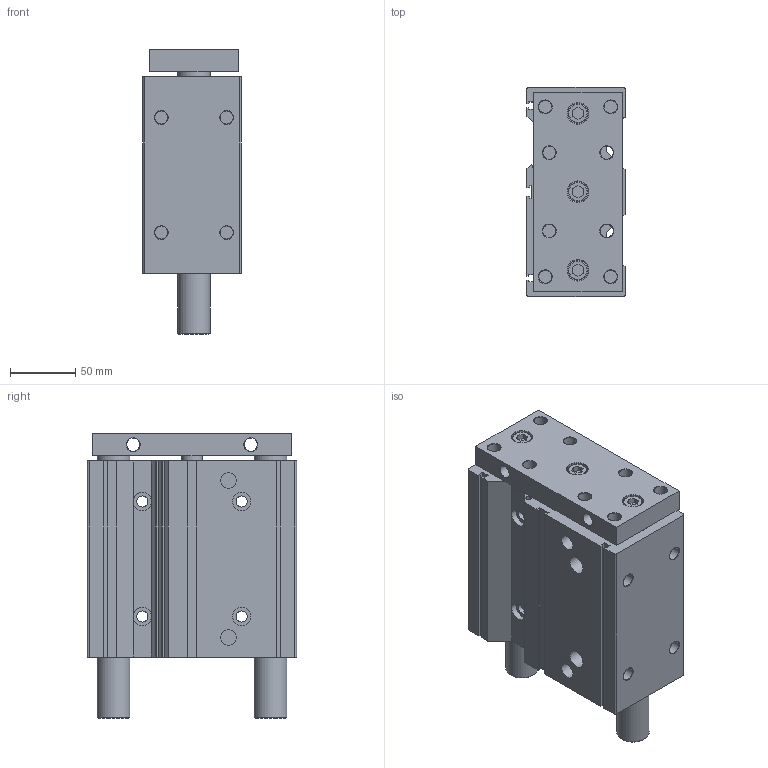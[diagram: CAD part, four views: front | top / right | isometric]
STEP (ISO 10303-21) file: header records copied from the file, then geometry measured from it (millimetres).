
FILE_DESCRIPTION((''),'2;1');
FILE_NAME('I:\3D電子目錄\氣缸\TB(U)\TB(U)63\TB(U)63\TB(U)63x100.stp','2007-08-06T09:29:25',('Administrator'),(''),'Autodesk Inventor 2008','Autodesk Inventor 2008','');
FILE_SCHEMA(('AUTOMOTIVE_DESIGN { 1 0 10303 214 1 1 1 1 }'));
Length unit declared in the file: millimetre
Products named in the file (1): TB(U)63X100
Bounding box: 75 x 160 x 218 mm (x, y, z)
Volume: 1779484.3 mm3; surface area: 162876.5 mm2
Topology: 1 solids, 1 shells, 206 faces, 462 edges, 294 vertices
Faces by surface type: plane 106, cylinder 52, cone 37, bspline 8, torus 3
Full cylindrical faces by diameter (mm): 8.5 x4, 10 x22, 12 x2, 14 x4, 15 x3, 16 x4, 25 x4, 32 x2, 60 x1
Entity records: 5380 total; most frequent: CARTESIAN_POINT 949, DIRECTION 924, ORIENTED_EDGE 740, EDGE_CURVE 370, EDGE_LOOP 364, AXIS2_PLACEMENT_3D 355, VERTEX_POINT 292, VECTOR 214
